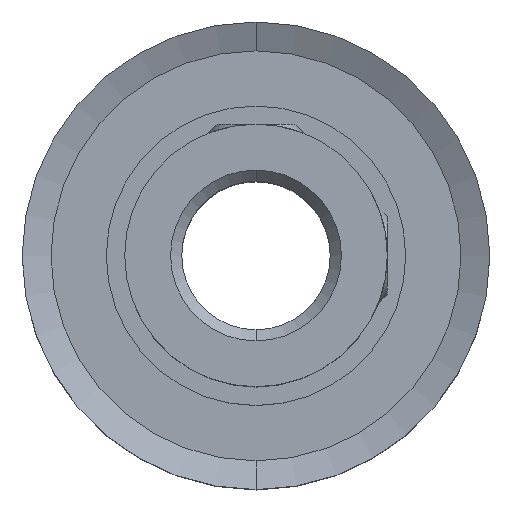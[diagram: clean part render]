
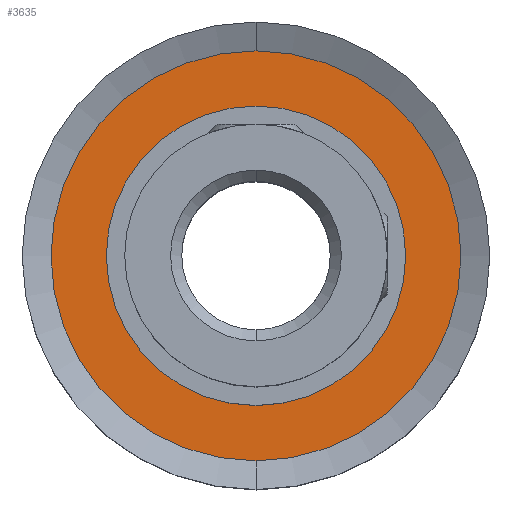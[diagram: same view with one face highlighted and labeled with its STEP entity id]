
A CAD part, top view. The second image highlights one B-rep face of the part: STEP entity #3635.
In plain terms, the highlighted planar face has unit normal (0, 0, 1).
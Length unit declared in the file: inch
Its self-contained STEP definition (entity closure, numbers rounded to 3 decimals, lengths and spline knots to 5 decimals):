
#620=CARTESIAN_POINT('',(0.,0.,-0.021));
#621=DIRECTION('',(0.,0.,-1.));
#622=DIRECTION('',(1.,0.,0.));
#623=AXIS2_PLACEMENT_3D('',#620,#621,#622);
#629=CARTESIAN_POINT('',(0.,0.,-0.021));
#630=DIRECTION('',(0.,0.,1.));
#631=DIRECTION('',(0.,1.,0.));
#632=AXIS2_PLACEMENT_3D('',#629,#630,#631);
#634=CARTESIAN_POINT('',(0.,0.,-0.021));
#635=DIRECTION('',(0.,0.,-1.));
#636=DIRECTION('',(0.,1.,0.));
#637=AXIS2_PLACEMENT_3D('',#634,#635,#636);
#2470=CARTESIAN_POINT('',(0.,0.,-0.021));
#2471=DIRECTION('',(0.,0.,-1.));
#2472=DIRECTION('',(-1.,0.,0.));
#2473=AXIS2_PLACEMENT_3D('',#2470,#2471,#2472);
#2920=CARTESIAN_POINT('',(0.,0.345,-0.021));
#2921=VERTEX_POINT('',#2920);
#2926=CARTESIAN_POINT('',(0.,-0.345,-0.021));
#2927=VERTEX_POINT('',#2926);
#2968=CARTESIAN_POINT('',(0.252,0.,-0.021));
#2969=CARTESIAN_POINT('',(-0.252,0.,-0.021));
#2970=VERTEX_POINT('',#2968);
#2971=VERTEX_POINT('',#2969);
#3619=CARTESIAN_POINT('',(0.,0.,-0.021));
#3620=DIRECTION('',(0.,0.,-1.));
#3621=DIRECTION('',(0.,-1.,0.));
#3622=AXIS2_PLACEMENT_3D('',#3619,#3620,#3621);
#3623=PLANE('',#3622);
#3625=ORIENTED_EDGE('',*,*,#3624,.F.);
#3627=ORIENTED_EDGE('',*,*,#3626,.T.);
#3628=EDGE_LOOP('',(#3625,#3627));
#3629=FACE_OUTER_BOUND('',#3628,.F.);
#3630=ORIENTED_EDGE('',*,*,#3609,.F.);
#3632=ORIENTED_EDGE('',*,*,#3631,.F.);
#3633=EDGE_LOOP('',(#3630,#3632));
#3634=FACE_BOUND('',#3633,.F.);
#624=CIRCLE('',#623,0.252);
#633=CIRCLE('',#632,0.345);
#638=CIRCLE('',#637,0.345);
#2474=CIRCLE('',#2473,0.252);
#3609=EDGE_CURVE('',#2970,#2971,#624,.T.);
#3624=EDGE_CURVE('',#2921,#2927,#633,.T.);
#3626=EDGE_CURVE('',#2921,#2927,#638,.T.);
#3631=EDGE_CURVE('',#2971,#2970,#2474,.T.);
#3635=ADVANCED_FACE('',(#3629,#3634),#3623,.F.);
